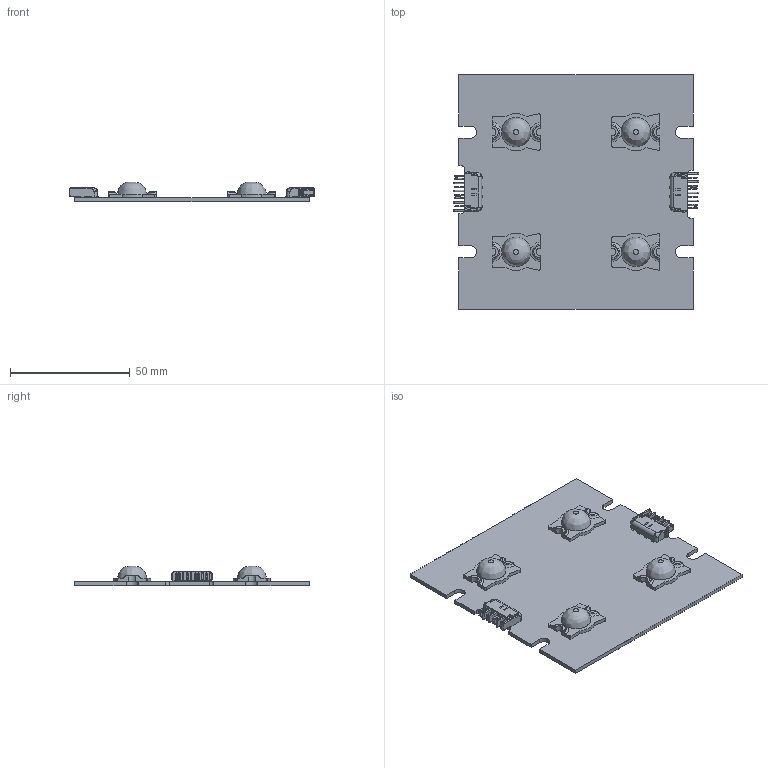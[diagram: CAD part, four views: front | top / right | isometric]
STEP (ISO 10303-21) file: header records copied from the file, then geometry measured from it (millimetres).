
FILE_DESCRIPTION (( 'STEP AP214' ), '1' );
FILE_NAME ('EC-03-073-100-REV-B.STEP', '2019-03-14T15:54:38', ( '' ), ( '' ), 'SwSTEP 2.0', 'SolidWorks 2014', '' );
FILE_SCHEMA (( 'AUTOMOTIVE_DESIGN' ));
Length unit declared in the file: millimetre
Products named in the file (1): EC-03-073-100-REV-B
Bounding box: 102.5 x 98 x 8.3 mm (x, y, z)
Surface area: 22801.5 mm2 (no closed solid volume)
Topology: 0 solids, 19 shells, 608 faces, 2036 edges, 1362 vertices
Faces by surface type: plane 370, cylinder 144, cone 44, bspline 34, torus 12, sphere 4
Full cylindrical faces by diameter (mm): 12.2 x4
Entity records: 31815 total; most frequent: CARTESIAN_POINT 8663, ORIENTED_EDGE 3230, DIRECTION 3128, EDGE_CURVE 1992, LINE 1470, VECTOR 1470, VERTEX_POINT 1358, AXIS2_PLACEMENT_3D 829
